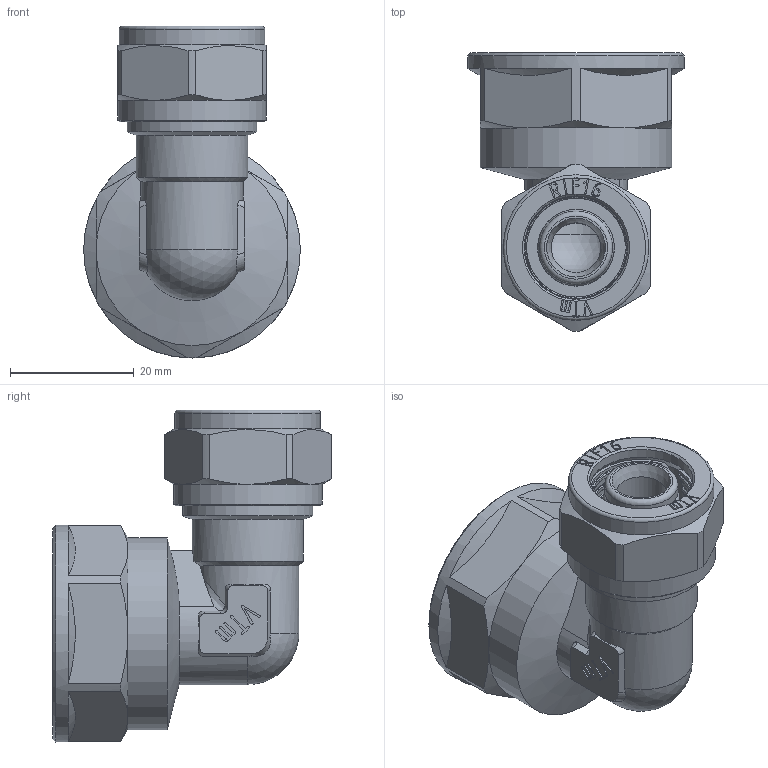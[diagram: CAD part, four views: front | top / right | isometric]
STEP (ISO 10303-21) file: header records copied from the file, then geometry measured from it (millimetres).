
FILE_DESCRIPTION(('STEP AP203'), '1');
FILE_NAME('VTm.352.N.001605', '', ('UNSPECIFIED'), ('UNSPECIFIED'), 'C3D Converter', 'C3D Toolkit', '');
FILE_SCHEMA(('CONFIG_CONTROL_DESIGN'));
Length unit declared in the file: millimetre
Products named in the file (1): ВР.302635.100.000 СБ
Bounding box: 35 x 45 x 53.61 mm (x, y, z)
Volume: 17615.6 mm3; surface area: 12295.1 mm2
Topology: 2 solids, 2 shells, 460 faces, 1256 edges, 825 vertices
Faces by surface type: extrusion 189, plane 158, cylinder 47, cone 35, torus 27, bspline 2, sphere 2
Full cylindrical faces by diameter (mm): 8 x1, 11.8 x4, 12.4 x1, 12.5 x1, 16.2 x1, 16.7 x1, 18 x1, 18.632 x1, 20.955 x1, 23.5 x1, 24 x1, 24.118 x1, 31 x1, 35 x1
Entity records: 17148 total; most frequent: CARTESIAN_POINT 6602, ORIENTED_EDGE 2424, DIRECTION 1547, EDGE_CURVE 1212, VERTEX_POINT 824, VECTOR 745, B_SPLINE_CURVE_WITH_KNOTS 674, LINE 556
